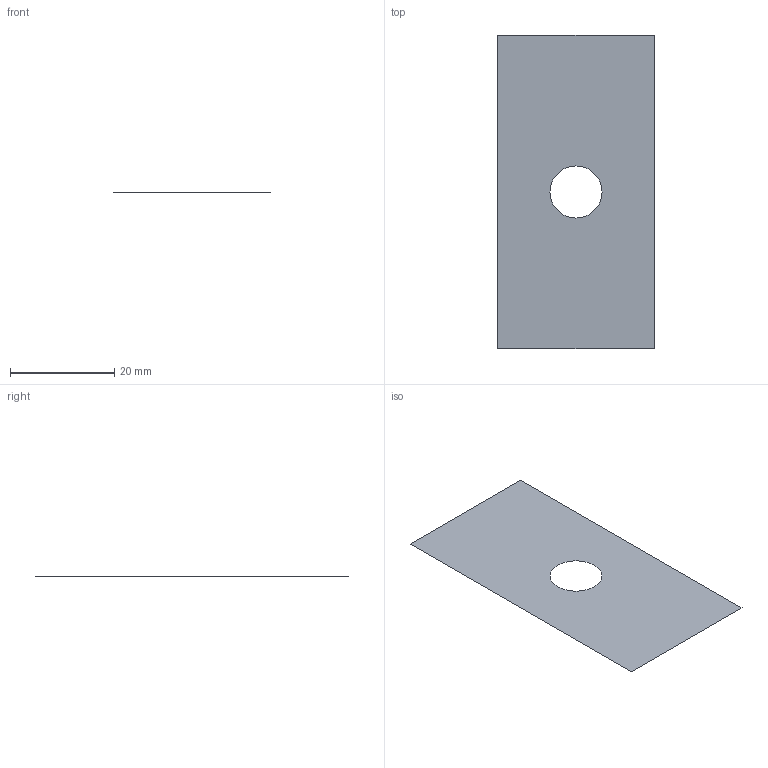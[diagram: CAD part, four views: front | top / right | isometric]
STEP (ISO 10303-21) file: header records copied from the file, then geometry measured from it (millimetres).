
FILE_DESCRIPTION (( 'STEP AP214' ), '1' );
FILE_NAME ('Lastra_2D.STEP', '2022-03-16T16:05:17', ( '' ), ( '' ), 'SwSTEP 2.0', 'SolidWorks 2021', '' );
FILE_SCHEMA (( 'AUTOMOTIVE_DESIGN' ));
Length unit declared in the file: millimetre
Products named in the file (1): Lastra_2D
Bounding box: 30 x 60 x 0 mm (x, y, z)
Surface area: 1721.5 mm2 (no closed solid volume)
Topology: 0 solids, 1 shells, 1 faces, 6 edges, 6 vertices
Faces by surface type: plane 1
Entity records: 91 total; most frequent: CARTESIAN_POINT 14, DIRECTION 12, ORIENTED_EDGE 6, EDGE_CURVE 6, VERTEX_POINT 6, LINE 4, AXIS2_PLACEMENT_3D 4, VECTOR 4
